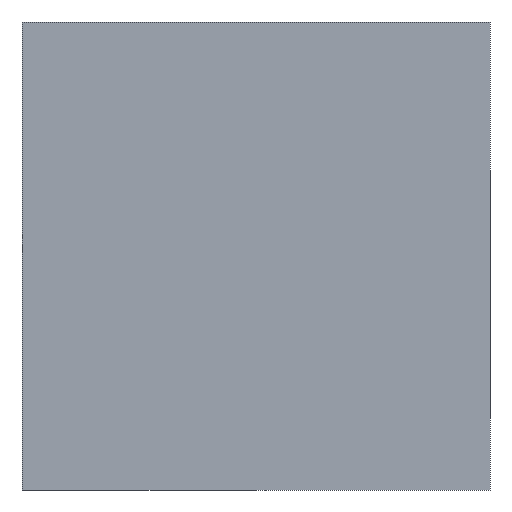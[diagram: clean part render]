
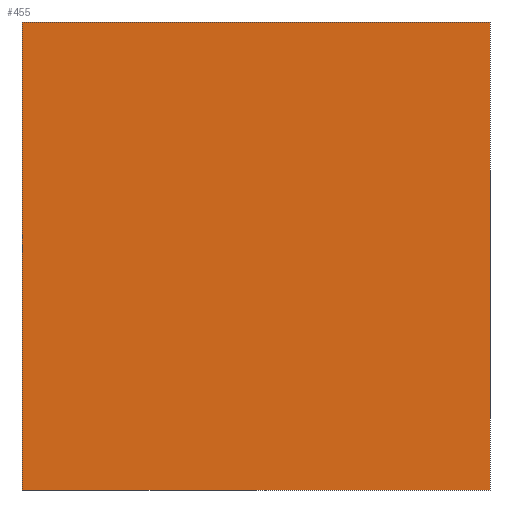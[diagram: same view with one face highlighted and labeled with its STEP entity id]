
A CAD part, left-side view. The second image highlights one B-rep face of the part: STEP entity #455.
In plain terms, the highlighted planar face has unit normal (-1, 0, 0).
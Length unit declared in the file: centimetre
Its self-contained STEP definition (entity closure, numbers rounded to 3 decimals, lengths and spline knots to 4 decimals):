
#16 = FACE_OUTER_BOUND ( 'NONE', #467, .T. ) ;
#23 = ORIENTED_EDGE ( 'NONE', *, *, #395, .T. ) ;
#58 = LINE ( 'NONE', #403, #407 ) ;
#124 = CARTESIAN_POINT ( 'NONE',  ( 0., 1000., 1000. ) ) ;
#132 = VERTEX_POINT ( 'NONE', #195 ) ;
#136 = AXIS2_PLACEMENT_3D ( 'NONE', #484, #293, #166 ) ;
#137 = LINE ( 'NONE', #174, #277 ) ;
#152 = ORIENTED_EDGE ( 'NONE', *, *, #160, .T. ) ;
#160 = EDGE_CURVE ( 'NONE', #132, #257, #239, .T. ) ;
#166 = DIRECTION ( 'NONE',  ( 0., 0., -1. ) ) ;
#169 = VECTOR ( 'NONE', #367, 100. ) ;
#174 = CARTESIAN_POINT ( 'NONE',  ( 0., 1000., 1000. ) ) ;
#186 = VERTEX_POINT ( 'NONE', #238 ) ;
#195 = CARTESIAN_POINT ( 'NONE',  ( 0., 1000., 1000. ) ) ;
#200 = DIRECTION ( 'NONE',  ( 0., 0., -1. ) ) ;
#238 = CARTESIAN_POINT ( 'NONE',  ( 0., 0., 0. ) ) ;
#239 = LINE ( 'NONE', #124, #325 ) ;
#247 = ORIENTED_EDGE ( 'NONE', *, *, #451, .F. ) ;
#252 = DIRECTION ( 'NONE',  ( 0., -1., 0. ) ) ;
#257 = VERTEX_POINT ( 'NONE', #354 ) ;
#277 = VECTOR ( 'NONE', #252, 100. ) ;
#293 = DIRECTION ( 'NONE',  ( 1., 0., 0. ) ) ;
#301 = VERTEX_POINT ( 'NONE', #393 ) ;
#304 = ORIENTED_EDGE ( 'NONE', *, *, #344, .F. ) ;
#325 = VECTOR ( 'NONE', #200, 100. ) ;
#326 = PLANE ( 'NONE',  #136 ) ;
#344 = EDGE_CURVE ( 'NONE', #301, #186, #58, .T. ) ;
#354 = CARTESIAN_POINT ( 'NONE',  ( 0., 1000., 0. ) ) ;
#367 = DIRECTION ( 'NONE',  ( 0., -1., 0. ) ) ;
#393 = CARTESIAN_POINT ( 'NONE',  ( 0., 0., 1000. ) ) ;
#395 = EDGE_CURVE ( 'NONE', #257, #186, #479, .T. ) ;
#403 = CARTESIAN_POINT ( 'NONE',  ( 0., 0., 1000. ) ) ;
#405 = DIRECTION ( 'NONE',  ( 0., 0., -1. ) ) ;
#407 = VECTOR ( 'NONE', #405, 100. ) ;
#443 = CARTESIAN_POINT ( 'NONE',  ( 0., 1000., 0. ) ) ;
#451 = EDGE_CURVE ( 'NONE', #132, #301, #137, .T. ) ;
#455 = ADVANCED_FACE ( 'NONE', ( #16 ), #326, .F. ) ;
#467 = EDGE_LOOP ( 'NONE', ( #23, #304, #247, #152 ) ) ;
#479 = LINE ( 'NONE', #443, #169 ) ;
#484 = CARTESIAN_POINT ( 'NONE',  ( 0., 1000., 1000. ) ) ;
